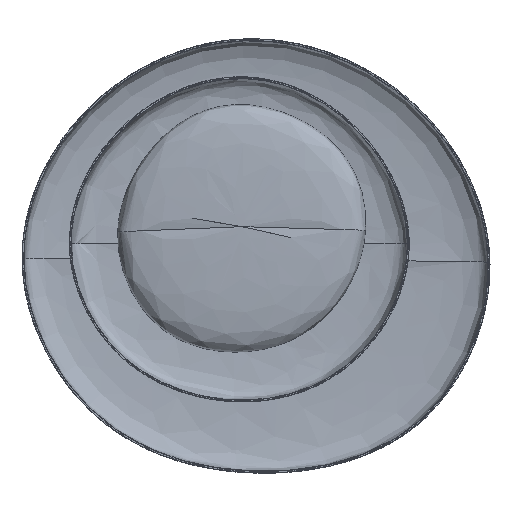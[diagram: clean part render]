
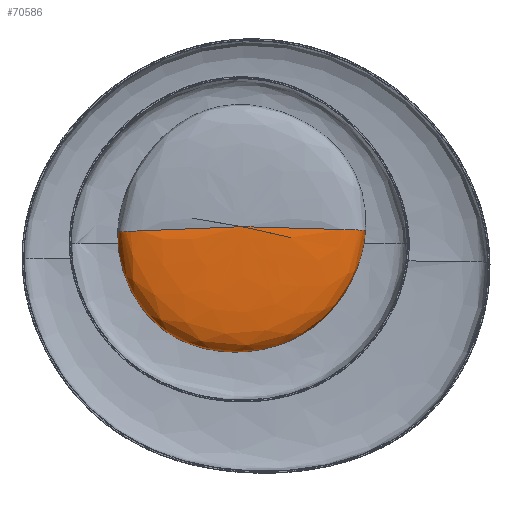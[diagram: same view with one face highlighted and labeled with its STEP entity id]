
A CAD part, top view. The second image highlights one B-rep face of the part: STEP entity #70586.
In plain terms, the highlighted free-form (B-spline) face has degree [3, 3] with [4, 7] control points.
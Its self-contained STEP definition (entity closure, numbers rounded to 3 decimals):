
#664 = CARTESIAN_POINT ( 'NONE',  ( -142.734, 29.007, 115.56 ) ) ;
#5072 = VERTEX_POINT ( 'NONE', #19643 ) ;
#7381 = CARTESIAN_POINT ( 'NONE',  ( -294.159, -150.434, 104.432 ) ) ;
#7990 = CARTESIAN_POINT ( 'NONE',  ( -142.734, 29.007, 115.56 ) ) ;
#11136 = CARTESIAN_POINT ( 'NONE',  ( 8.992, -127.533, 80.528 ) ) ;
#12658 = CARTESIAN_POINT ( 'NONE',  ( -130.27, -190.609, 80.528 ) ) ;
#13917 = CARTESIAN_POINT ( 'NONE',  ( -142.734, 29.007, 115.56 ) ) ;
#15579 = CARTESIAN_POINT ( 'NONE',  ( -130.27, -190.609, 80.528 ) ) ;
#19643 = CARTESIAN_POINT ( 'NONE',  ( -344.306, 20.948, 80.528 ) ) ;
#19724 = CARTESIAN_POINT ( 'NONE',  ( 57.883, 23.3, 80.528 ) ) ;
#19896 = CARTESIAN_POINT ( 'NONE',  ( -344.306, 20.948, 80.528 ) ) ;
#22804 = CARTESIAN_POINT ( 'NONE',  ( -290.998, -146.913, 115.56 ) ) ;
#24325 = CARTESIAN_POINT ( 'NONE',  ( 55.506, 23.326, 104.432 ) ) ;
#24350 = EDGE_CURVE ( 'NONE', #27373, #91046, #32796, .T. ) ;
#24455 = CARTESIAN_POINT ( 'NONE',  ( 55.506, 23.326, 104.432 ) ) ;
#27373 = VERTEX_POINT ( 'NONE', #13917 ) ;
#30046 = CARTESIAN_POINT ( 'NONE',  ( -346.288, -35.758, 80.528 ) ) ;
#30557 = CARTESIAN_POINT ( 'NONE',  ( -131.298, -181.994, 115.56 ) ) ;
#31578 = CARTESIAN_POINT ( 'NONE',  ( -339.209, -33.954, 115.56 ) ) ;
#31712 = CARTESIAN_POINT ( 'NONE',  ( 49.844, 23.719, 115.56 ) ) ;
#32081 = CARTESIAN_POINT ( 'NONE',  ( -142.734, 29.007, 115.56 ) ) ;
#32796 = B_SPLINE_CURVE_WITH_KNOTS ( 'NONE', 3,
 ( #77143, #31712, #24455, #47790 ),
 .UNSPECIFIED., .F., .F.,
 ( 4, 4 ),
 ( 0., 1. ),
 .UNSPECIFIED. ) ;
#38386 = FACE_OUTER_BOUND ( 'NONE', #99176, .T. ) ;
#38884 = CARTESIAN_POINT ( 'NONE',  ( -130.392, -188.02, 104.432 ) ) ;
#39522 = CARTESIAN_POINT ( 'NONE',  ( -344.306, 20.948, 80.528 ) ) ;
#42695 = CARTESIAN_POINT ( 'NONE',  ( 54.611, -27.109, 80.528 ) ) ;
#46137 = CARTESIAN_POINT ( 'NONE',  ( -142.734, 29.007, 115.56 ) ) ;
#47176 = CARTESIAN_POINT ( 'NONE',  ( 8.992, -127.533, 80.528 ) ) ;
#47663 = CARTESIAN_POINT ( 'NONE',  ( -344.306, 20.948, 80.528 ) ) ;
#47790 = CARTESIAN_POINT ( 'NONE',  ( 57.883, 23.3, 80.528 ) ) ;
#48178 = CARTESIAN_POINT ( 'NONE',  ( 3.146, -121.121, 115.56 ) ) ;
#48315 = CARTESIAN_POINT ( 'NONE',  ( -337.229, 20.84, 115.56 ) ) ;
#54407 = CARTESIAN_POINT ( 'NONE',  ( -343.821, -35.025, 104.432 ) ) ;
#55434 = CARTESIAN_POINT ( 'NONE',  ( -337.229, 20.84, 115.56 ) ) ;
#59417 = B_SPLINE_CURVE_WITH_KNOTS ( 'NONE', 3,
 ( #7990, #48315, #86946, #39522 ),
 .UNSPECIFIED., .F., .F.,
 ( 4, 4 ),
 ( 0., 1. ),
 .UNSPECIFIED. ) ;
#62163 = CARTESIAN_POINT ( 'NONE',  ( 46.967, -24.764, 115.56 ) ) ;
#63163 = CARTESIAN_POINT ( 'NONE',  ( -341.863, 21.002, 104.432 ) ) ;
#63658 = CARTESIAN_POINT ( 'NONE',  ( -142.734, 29.007, 115.56 ) ) ;
#64285 = B_SPLINE_SURFACE_WITH_KNOTS ( 'NONE', 3, 3, ( 
 ( #664, #101779, #46137, #32081, #77531, #69894, #63658 ),
 ( #55434, #31578, #22804, #30557, #48178, #62163, #93562 ),
 ( #63163, #54407, #7381, #38884, #95070, #70376, #24325 ),
 ( #47663, #30046, #86813, #15579, #47176, #78570, #69376 ) ),
 .UNSPECIFIED., .F., .F., .F.,
 ( 4, 4 ),
 ( 4, 1, 1, 1, 4 ),
 ( 0., 1. ),
 ( -6., -5., -4., -3., -2. ),
 .UNSPECIFIED. ) ;
#69376 = CARTESIAN_POINT ( 'NONE',  ( 57.883, 23.3, 80.528 ) ) ;
#69894 = CARTESIAN_POINT ( 'NONE',  ( -142.734, 29.007, 115.56 ) ) ;
#70376 = CARTESIAN_POINT ( 'NONE',  ( 52.274, -26.479, 104.432 ) ) ;
#70586 = ADVANCED_FACE ( 'NONE', ( #38386 ), #64285, .T. ) ;
#73284 = ORIENTED_EDGE ( 'NONE', *, *, #86017, .T. ) ;
#77143 = CARTESIAN_POINT ( 'NONE',  ( -142.734, 29.007, 115.56 ) ) ;
#77531 = CARTESIAN_POINT ( 'NONE',  ( -142.734, 29.007, 115.56 ) ) ;
#78570 = CARTESIAN_POINT ( 'NONE',  ( 54.611, -27.109, 80.528 ) ) ;
#82393 = CARTESIAN_POINT ( 'NONE',  ( -346.288, -35.758, 80.528 ) ) ;
#85754 = EDGE_CURVE ( 'NONE', #5072, #91046, #86366, .T. ) ;
#86017 = EDGE_CURVE ( 'NONE', #27373, #5072, #59417, .T. ) ;
#86366 = B_SPLINE_CURVE_WITH_KNOTS ( 'NONE', 3,
 ( #19896, #82393, #99371, #12658, #11136, #42695, #91134 ),
 .UNSPECIFIED., .F., .F.,
 ( 4, 1, 1, 1, 4 ),
 ( 0., 0.25, 0.5, 0.75, 1. ),
 .UNSPECIFIED. ) ;
#86813 = CARTESIAN_POINT ( 'NONE',  ( -296.024, -152.567, 80.528 ) ) ;
#86946 = CARTESIAN_POINT ( 'NONE',  ( -341.863, 21.002, 104.432 ) ) ;
#91046 = VERTEX_POINT ( 'NONE', #19724 ) ;
#91134 = CARTESIAN_POINT ( 'NONE',  ( 57.883, 23.3, 80.528 ) ) ;
#93562 = CARTESIAN_POINT ( 'NONE',  ( 49.844, 23.719, 115.56 ) ) ;
#95070 = CARTESIAN_POINT ( 'NONE',  ( 7.201, -125.699, 104.432 ) ) ;
#98803 = ORIENTED_EDGE ( 'NONE', *, *, #85754, .T. ) ;
#99176 = EDGE_LOOP ( 'NONE', ( #98803, #99775, #73284 ) ) ;
#99371 = CARTESIAN_POINT ( 'NONE',  ( -296.024, -152.567, 80.528 ) ) ;
#99775 = ORIENTED_EDGE ( 'NONE', *, *, #24350, .F. ) ;
#101779 = CARTESIAN_POINT ( 'NONE',  ( -142.734, 29.007, 115.56 ) ) ;
